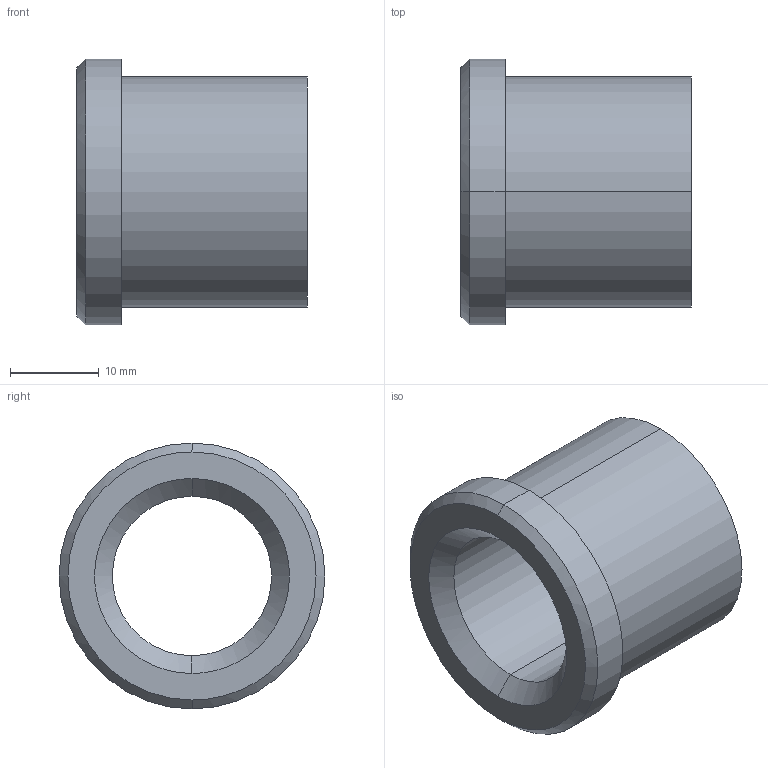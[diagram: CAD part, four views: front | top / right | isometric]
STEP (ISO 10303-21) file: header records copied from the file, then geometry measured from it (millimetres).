
FILE_DESCRIPTION(('CATIA V5 STEP Exchange'),'2;1');
FILE_NAME('C:\Users\Utente\Desktop\IO LAVORO\3D X SITO CF\X SITO\PLASTICA\353\353-18X26.stp','2021-05-08T08:44:10+00:00',('none'),('none'),'CATIA Version 5 Release 20 GA (IN-10)','CATIA V5 STEP AP203','none');
FILE_SCHEMA(('CONFIG_CONTROL_DESIGN'));
Length unit declared in the file: millimetre
Products named in the file (1): 353-18X26
Bounding box: 26 x 30 x 30 mm (x, y, z)
Volume: 7871.7 mm3; surface area: 4408.6 mm2
Topology: 1 solids, 1 shells, 15 faces, 48 edges, 36 vertices
Faces by surface type: cylinder 6, cone 4, plane 3, torus 2
Entity records: 680 total; most frequent: CARTESIAN_POINT 212, ORIENTED_EDGE 96, DIRECTION 70, EDGE_CURVE 48, AXIS2_PLACEMENT_3D 46, VERTEX_POINT 36, CIRCLE 30, EDGE_LOOP 18
